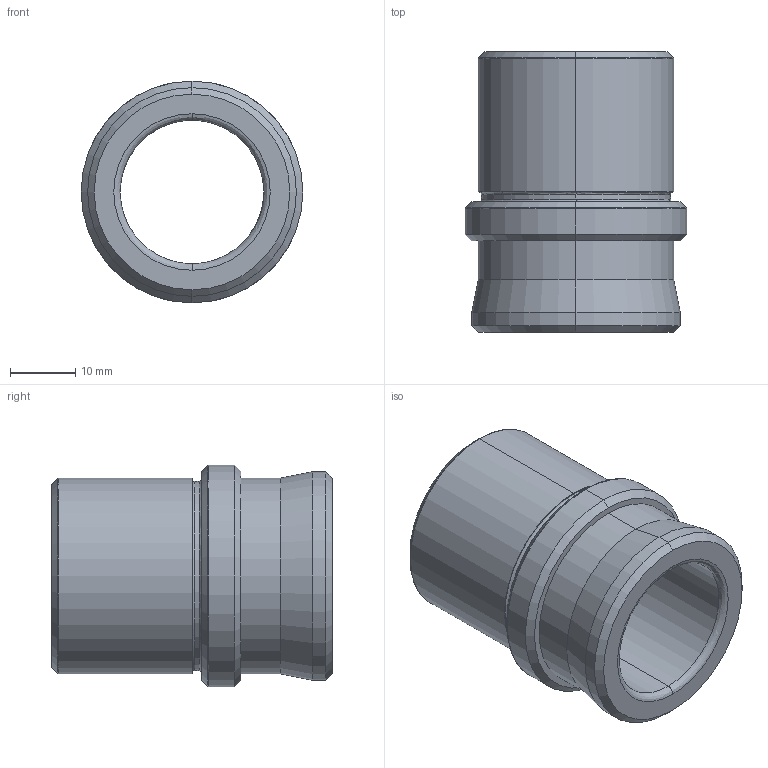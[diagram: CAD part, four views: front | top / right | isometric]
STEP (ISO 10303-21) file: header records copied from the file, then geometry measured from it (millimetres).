
FILE_DESCRIPTION( ( 'STEP AP203' ), '1' );
FILE_NAME( 'D:/Delta 3 D/D27/D27 - 16x43x23.step', '2003-01-03T00:25:59', ( ' ' ), ( ' ' ), 'XStep 1.0', ' ', ' ' );
FILE_SCHEMA( ( 'CONFIG_CONTROL_DESIGN' ) );
Length unit declared in the file: metre
Products named in the file (1): 1
Bounding box: 34 x 43 x 34 mm (x, y, z)
Volume: 15494.9 mm3; surface area: 8049.4 mm2
Topology: 1 solids, 1 shells, 39 faces, 78 edges, 44 vertices
Faces by surface type: revolution 22, bspline 17
Entity records: 1233 total; most frequent: CARTESIAN_POINT 425, ORIENTED_EDGE 156, DIRECTION 142, EDGE_CURVE 78, AXIS2_PLACEMENT_3D 49, CIRCLE 48, EDGE_LOOP 44, VERTEX_POINT 44
